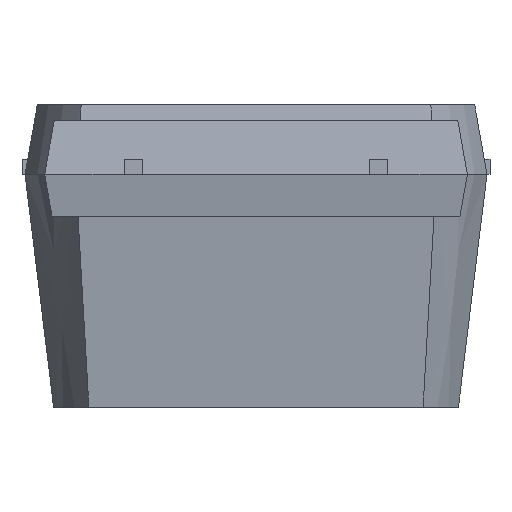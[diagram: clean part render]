
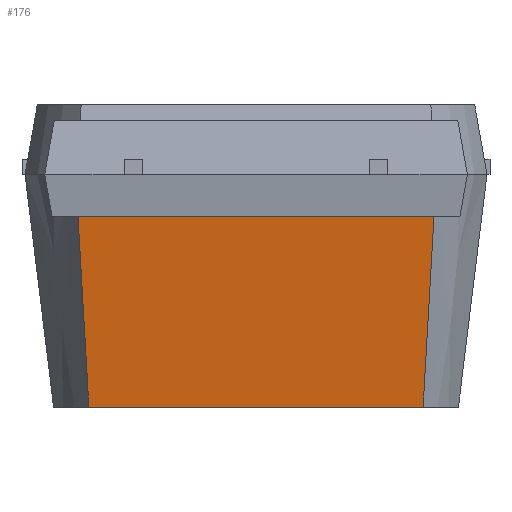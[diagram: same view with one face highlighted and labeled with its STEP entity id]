
A CAD part, front view. The second image highlights one B-rep face of the part: STEP entity #176.
In plain terms, the highlighted planar face has unit normal (0, -0.993, -0.122).
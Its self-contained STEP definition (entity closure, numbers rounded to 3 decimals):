
#35 = ORIENTED_EDGE ( 'NONE', *, *, #383, .F. ) ;
#94 = LINE ( 'NONE', #311, #2431 ) ;
#123 = ORIENTED_EDGE ( 'NONE', *, *, #2873, .F. ) ;
#176 = ADVANCED_FACE ( 'NONE', ( #1398 ), #2052, .T. ) ;
#308 = VERTEX_POINT ( 'NONE', #3720 ) ;
#311 = CARTESIAN_POINT ( 'NONE',  ( 1260.695, -129.346, 0. ) ) ;
#340 = B_SPLINE_CURVE_WITH_KNOTS ( 'NONE', 3,
 ( #3475, #3879, #3011, #4607 ),
 .UNSPECIFIED., .F., .F.,
 ( 4, 4 ),
 ( 0., 0.004 ),
 .UNSPECIFIED. ) ;
#383 = EDGE_CURVE ( 'NONE', #621, #308, #5036, .T. ) ;
#393 = AXIS2_PLACEMENT_3D ( 'NONE', #1337, #4876, #4040 ) ;
#426 = ORIENTED_EDGE ( 'NONE', *, *, #3543, .T. ) ;
#458 = DIRECTION ( 'NONE',  ( 1., 0., 0. ) ) ;
#467 = LINE ( 'NONE', #2184, #4325 ) ;
#515 = EDGE_LOOP ( 'NONE', ( #2068, #123, #4005, #426, #35, #3022, #2328, #2482, #959, #1048 ) ) ;
#523 = LINE ( 'NONE', #3792, #2661 ) ;
#581 = CARTESIAN_POINT ( 'NONE',  ( 1260.695, -129.346, 0. ) ) ;
#588 = LINE ( 'NONE', #4387, #4103 ) ;
#621 = VERTEX_POINT ( 'NONE', #881 ) ;
#710 = CARTESIAN_POINT ( 'NONE',  ( 1262.158, -129.346, 0. ) ) ;
#714 = DIRECTION ( 'NONE',  ( 1., 0., 0. ) ) ;
#715 = DIRECTION ( 'NONE',  ( 1., 0., 0. ) ) ;
#881 = CARTESIAN_POINT ( 'NONE',  ( 1265.206, -129.346, 0. ) ) ;
#959 = ORIENTED_EDGE ( 'NONE', *, *, #1263, .F. ) ;
#993 = DIRECTION ( 'NONE',  ( 1., 0., 0. ) ) ;
#1048 = ORIENTED_EDGE ( 'NONE', *, *, #3921, .T. ) ;
#1128 = LINE ( 'NONE', #3690, #3887 ) ;
#1135 = LINE ( 'NONE', #3608, #2115 ) ;
#1263 = EDGE_CURVE ( 'NONE', #3734, #3813, #2368, .T. ) ;
#1336 = VECTOR ( 'NONE', #993, 1000. ) ;
#1337 = CARTESIAN_POINT ( 'NONE',  ( 1260.695, -129.346, 0. ) ) ;
#1398 = FACE_OUTER_BOUND ( 'NONE', #515, .T. ) ;
#1415 = EDGE_CURVE ( 'NONE', #3813, #3170, #94, .T. ) ;
#1428 = DIRECTION ( 'NONE',  ( -1., 0., 0. ) ) ;
#1851 = EDGE_CURVE ( 'NONE', #3620, #621, #467, .T. ) ;
#1878 = VERTEX_POINT ( 'NONE', #4976 ) ;
#1979 = VERTEX_POINT ( 'NONE', #710 ) ;
#2006 = B_SPLINE_CURVE_WITH_KNOTS ( 'NONE', 3,
 ( #2304, #5101, #4294, #5066 ),
 .UNSPECIFIED., .F., .F.,
 ( 4, 4 ),
 ( 0., 0.004 ),
 .UNSPECIFIED. ) ;
#2038 = CARTESIAN_POINT ( 'NONE',  ( 1262.666, -129.346, 0. ) ) ;
#2052 = PLANE ( 'NONE',  #393 ) ;
#2068 = ORIENTED_EDGE ( 'NONE', *, *, #2344, .F. ) ;
#2115 = VECTOR ( 'NONE', #458, 1000. ) ;
#2184 = CARTESIAN_POINT ( 'NONE',  ( 1260.695, -129.346, 0. ) ) ;
#2304 = CARTESIAN_POINT ( 'NONE',  ( 1260.915, -128.873, -3.852 ) ) ;
#2328 = ORIENTED_EDGE ( 'NONE', *, *, #4423, .F. ) ;
#2344 = EDGE_CURVE ( 'NONE', #3330, #1979, #588, .T. ) ;
#2368 = LINE ( 'NONE', #581, #1336 ) ;
#2423 = DIRECTION ( 'NONE',  ( 1., 0., 0. ) ) ;
#2431 = VECTOR ( 'NONE', #714, 1000. ) ;
#2482 = ORIENTED_EDGE ( 'NONE', *, *, #1415, .F. ) ;
#2661 = VECTOR ( 'NONE', #1428, 1000. ) ;
#2873 = EDGE_CURVE ( 'NONE', #3555, #3330, #2006, .T. ) ;
#2968 = CARTESIAN_POINT ( 'NONE',  ( 1260.695, -129.346, 0. ) ) ;
#2972 = EDGE_CURVE ( 'NONE', #3555, #1878, #1135, .T. ) ;
#2980 = DIRECTION ( 'NONE',  ( 1., 0., 0. ) ) ;
#3011 = CARTESIAN_POINT ( 'NONE',  ( 1266.599, -129.189, -1.284 ) ) ;
#3022 = ORIENTED_EDGE ( 'NONE', *, *, #1851, .F. ) ;
#3055 = CARTESIAN_POINT ( 'NONE',  ( 1263.936, -129.346, 0. ) ) ;
#3102 = CARTESIAN_POINT ( 'NONE',  ( 1260.695, -129.346, 0. ) ) ;
#3170 = VERTEX_POINT ( 'NONE', #3055 ) ;
#3330 = VERTEX_POINT ( 'NONE', #2968 ) ;
#3475 = CARTESIAN_POINT ( 'NONE',  ( 1266.449, -128.873, -3.852 ) ) ;
#3543 = EDGE_CURVE ( 'NONE', #1878, #308, #340, .T. ) ;
#3555 = VERTEX_POINT ( 'NONE', #3824 ) ;
#3608 = CARTESIAN_POINT ( 'NONE',  ( 1263.682, -128.873, -3.852 ) ) ;
#3620 = VERTEX_POINT ( 'NONE', #5106 ) ;
#3690 = CARTESIAN_POINT ( 'NONE',  ( 1260.695, -129.346, 0. ) ) ;
#3720 = CARTESIAN_POINT ( 'NONE',  ( 1266.669, -129.346, 0. ) ) ;
#3734 = VERTEX_POINT ( 'NONE', #2038 ) ;
#3792 = CARTESIAN_POINT ( 'NONE',  ( 1260.695, -129.346, 0. ) ) ;
#3813 = VERTEX_POINT ( 'NONE', #4491 ) ;
#3824 = CARTESIAN_POINT ( 'NONE',  ( 1260.915, -128.873, -3.852 ) ) ;
#3879 = CARTESIAN_POINT ( 'NONE',  ( 1266.526, -129.031, -2.568 ) ) ;
#3887 = VECTOR ( 'NONE', #4488, 1000. ) ;
#3921 = EDGE_CURVE ( 'NONE', #3734, #1979, #523, .T. ) ;
#4005 = ORIENTED_EDGE ( 'NONE', *, *, #2972, .T. ) ;
#4040 = DIRECTION ( 'NONE',  ( 0., 0.122, -0.993 ) ) ;
#4103 = VECTOR ( 'NONE', #2423, 1000. ) ;
#4294 = CARTESIAN_POINT ( 'NONE',  ( 1260.765, -129.189, -1.284 ) ) ;
#4325 = VECTOR ( 'NONE', #2980, 1000. ) ;
#4387 = CARTESIAN_POINT ( 'NONE',  ( 1260.695, -129.346, 0. ) ) ;
#4423 = EDGE_CURVE ( 'NONE', #3170, #3620, #1128, .T. ) ;
#4488 = DIRECTION ( 'NONE',  ( 1., 0., 0. ) ) ;
#4491 = CARTESIAN_POINT ( 'NONE',  ( 1263.428, -129.346, 0. ) ) ;
#4607 = CARTESIAN_POINT ( 'NONE',  ( 1266.669, -129.346, 0. ) ) ;
#4654 = VECTOR ( 'NONE', #715, 1000. ) ;
#4876 = DIRECTION ( 'NONE',  ( 0., -0.993, -0.122 ) ) ;
#4976 = CARTESIAN_POINT ( 'NONE',  ( 1266.449, -128.873, -3.852 ) ) ;
#5036 = LINE ( 'NONE', #3102, #4654 ) ;
#5066 = CARTESIAN_POINT ( 'NONE',  ( 1260.695, -129.346, 0. ) ) ;
#5101 = CARTESIAN_POINT ( 'NONE',  ( 1260.839, -129.031, -2.568 ) ) ;
#5106 = CARTESIAN_POINT ( 'NONE',  ( 1264.698, -129.346, 0. ) ) ;
